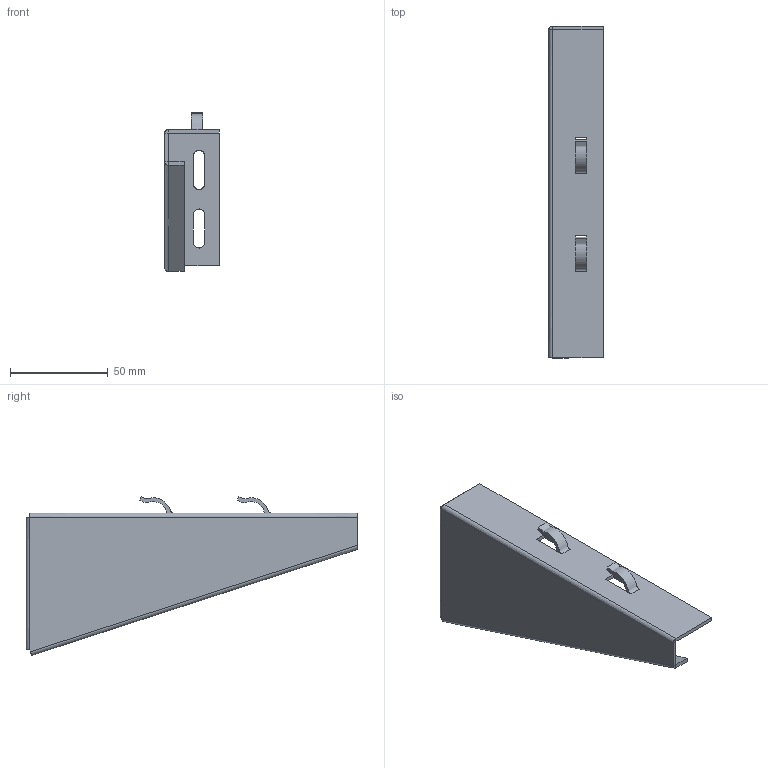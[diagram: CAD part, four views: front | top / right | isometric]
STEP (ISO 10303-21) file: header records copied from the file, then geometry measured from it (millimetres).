
FILE_DESCRIPTION(/* description */ (''),/* implementation_level */ '2;1');
FILE_NAME(/* name */ 'NZM150',/* time_stamp */ '2012-11-29T22:25:09+01:00',/* author */ (''),/* organization */ (''),/* preprocessor_version */ 'ST-DEVELOPER v10',/* originating_system */ '',/* authorisation */ '');
FILE_SCHEMA (('AUTOMOTIVE_DESIGN_CC2'));
Length unit declared in the file: millimetre
Products named in the file (1): 1
Bounding box: 28 x 170 x 81.36 mm (x, y, z)
Surface area: 31695 mm2 (no closed solid volume)
Topology: 0 solids, 54 shells, 54 faces, 250 edges, 250 vertices
Faces by surface type: plane 43, bspline 11
Entity records: 3436 total; most frequent: CARTESIAN_POINT 1643, ORIENTED_EDGE 250, EDGE_CURVE 250, VERTEX_POINT 250, B_SPLINE_CURVE_WITH_KNOTS 172, EDGE_LOOP 62, COLOUR_RGB 54, FILL_AREA_STYLE_COLOUR 54
